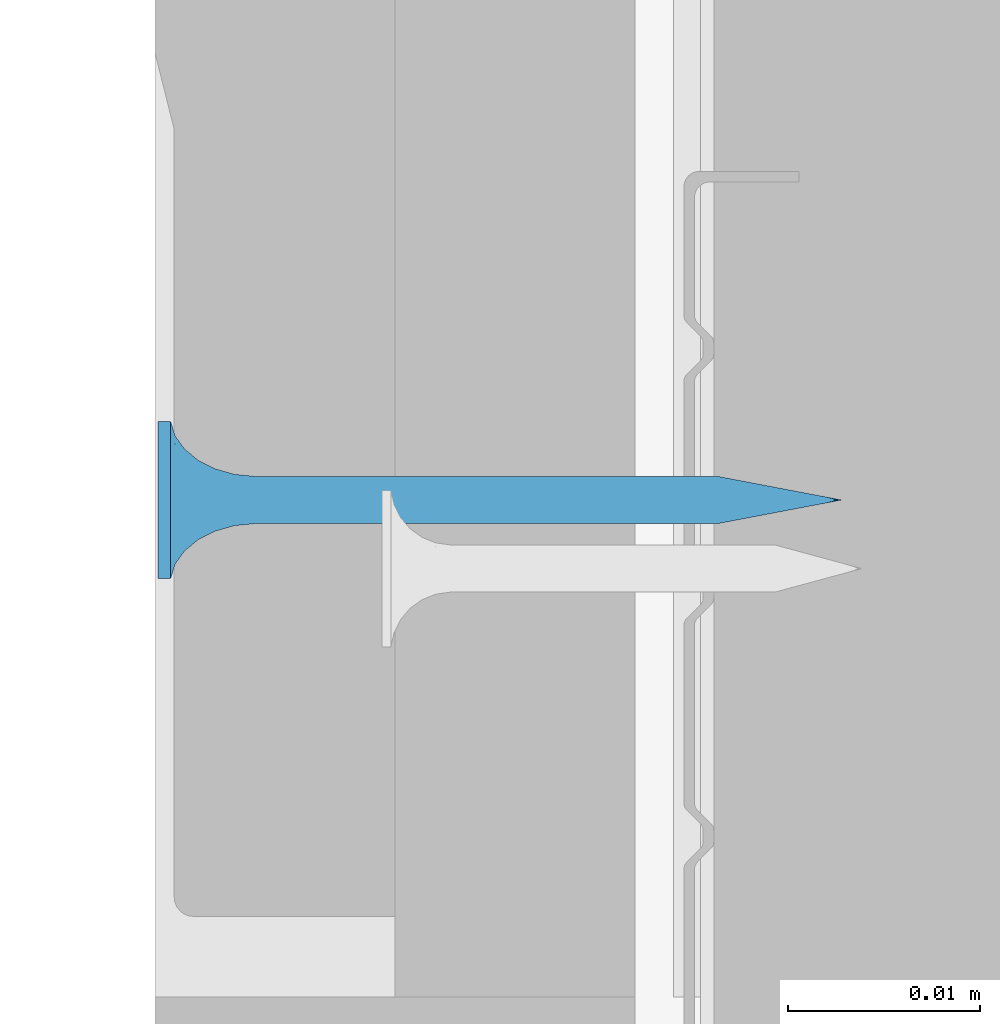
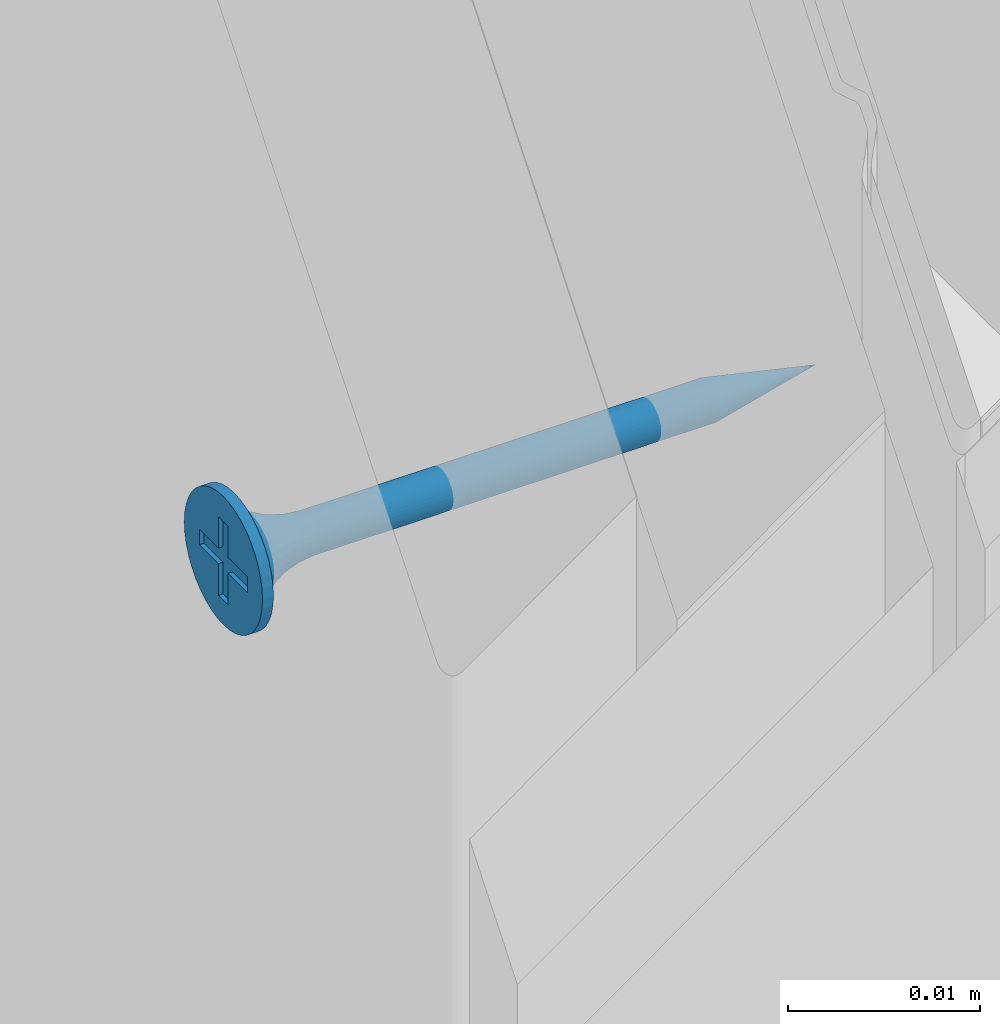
# One storey, part 65 of 92: 1 wall.
"""IFC2X3 building model written with IfcOpenShell, lengths in millimetres."""

from ifc_helpers import new_model, si_unit, frame, origin_with_axes, place, context, subcontext, project, spatial, faceted_brep, material, type_object, element, save


model = new_model("IFC2X3")

# Units and contexts
model_context = context("Model", 3, world=origin_with_axes())
body_context = subcontext(model_context, "Body", "Model", "MODEL_VIEW")
ifc_project = project(units=[si_unit("LENGTHUNIT", "METRE", prefix="MILLI"), si_unit("AREAUNIT", "SQUARE_METRE"), si_unit("VOLUMEUNIT", "CUBIC_METRE")], contexts=[model_context])

# Site, building, storey
site_placement = place(None, origin_with_axes())
site = spatial("IfcSite", under=ifc_project, at=site_placement, Name="Default Site", CompositionType="ELEMENT")
building_placement = place(site_placement, origin_with_axes())
building = spatial("IfcBuilding", under=site, at=building_placement, Name="Default Building", CompositionType="ELEMENT")
storey_placement = place(building_placement, origin_with_axes())
storey = spatial("IfcBuildingStorey", under=building, at=storey_placement, Name="Default Building Storey", CompositionType="ELEMENT", Elevation=0.0)

# Wall
ifc_material = material(Name="Undefined2")
wall_type = type_object("IfcWallType", Name="Wkręt RIGIPS TN 35#37", PredefinedType="NOTDEFINED")
wall_placement = place(storey_placement, frame((4833.413128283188, 6.443031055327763, 636.1937980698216), z_axis=(0.0, 0.0, 1.0), x_axis=(6.938893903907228e-17, -1.0, 0.0)))
element("IfcWall", 1, at=wall_placement, inside=storey, type_object=wall_type, material=ifc_material, Name="Wkręt RIGIPS TN 35", context=body_context, shape_type="Brep", body=[
    faceted_brep([(-141.48753293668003, -4832.598052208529, 555.1619773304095), (-141.48753293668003, -4833.259714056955, 555.1619773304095), (-141.5377465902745, -4833.259714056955, 555.8000000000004), (-141.5377465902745, -4832.598052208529, 555.8000000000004), (-141.33812900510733, -4832.598052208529, 554.539664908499), (-141.33812900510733, -4833.259714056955, 554.539664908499), (-141.09321328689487, -4832.598052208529, 553.9483861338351), (-141.09321328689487, -4833.259714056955, 553.9483861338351), (-140.75881656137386, -4832.598052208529, 553.4027002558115), (-140.75881656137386, -4833.259714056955, 553.4027002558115), (-140.34317265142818, -4833.259714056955, 552.9160436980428), (-140.45417279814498, -4832.598052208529, 553.0314906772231), (-139.8565160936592, -4833.259714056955, 552.5003997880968), (-140.1080097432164, -4832.598052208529, 552.6986613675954), (-139.72512626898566, -4832.598052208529, 552.4088260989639), (-139.31083021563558, -4833.259714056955, 552.1660030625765), (-139.31083021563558, -4832.598052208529, 552.1660030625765), (-138.71955144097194, -4833.259714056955, 551.9210873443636), (-138.87086516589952, -4832.598052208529, 551.9735585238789), (-138.41133029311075, -4832.598052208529, 551.8341602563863), (-138.0972390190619, -4833.259714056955, 551.7716834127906), (-137.9385961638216, -4832.598052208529, 551.74974052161), (-137.45921634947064, -4833.259714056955, 551.7214697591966), (-137.45921634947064, -4832.598052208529, 551.7214697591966), (-136.82119367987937, -4832.598052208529, 551.7716834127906), (-136.82119367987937, -4833.259714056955, 551.7716834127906), (-136.19888125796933, -4832.598052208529, 551.9210873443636), (-136.19888125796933, -4833.259714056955, 551.9210873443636), (-135.6076024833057, -4832.598052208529, 552.1660030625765), (-135.6076024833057, -4833.259714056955, 552.1660030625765), (-135.06191660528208, -4832.598052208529, 552.5003997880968), (-135.06191660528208, -4833.259714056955, 552.5003997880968), (-134.57526004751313, -4832.598052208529, 552.9160436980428), (-134.57526004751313, -4833.259714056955, 552.9160436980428), (-134.1596161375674, -4832.598052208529, 553.4027002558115), (-134.1596161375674, -4833.259714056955, 553.4027002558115), (-133.8252194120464, -4832.598052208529, 553.9483861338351), (-133.8252194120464, -4833.259714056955, 553.9483861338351), (-133.58030369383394, -4832.598052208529, 554.539664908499), (-133.58030369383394, -4833.259714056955, 554.539664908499), (-133.3806861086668, -4833.259714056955, 555.8000000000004), (-133.3806861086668, -4832.598052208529, 555.8000000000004), (-133.43089976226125, -4832.598052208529, 556.4380226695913), (-133.43089976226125, -4833.259714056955, 556.4380226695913), (-133.43089976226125, -4833.259714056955, 555.1619773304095), (-133.43089976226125, -4832.598052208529, 555.1619773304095), (-133.58030369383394, -4832.598052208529, 557.0603350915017), (-133.58030369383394, -4833.259714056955, 557.0603350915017), (-133.8252194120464, -4832.598052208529, 557.6516138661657), (-133.8252194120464, -4833.259714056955, 557.6516138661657), (-134.1596161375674, -4832.598052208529, 558.1972997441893), (-134.1596161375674, -4833.259714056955, 558.1972997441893), (-134.57526004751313, -4832.598052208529, 558.6839563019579), (-134.57526004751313, -4833.259714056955, 558.6839563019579), (-135.06191660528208, -4832.598052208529, 559.099600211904), (-135.06191660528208, -4833.259714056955, 559.099600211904), (-135.6076024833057, -4832.598052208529, 559.4339969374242), (-135.6076024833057, -4833.259714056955, 559.4339969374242), (-136.19888125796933, -4832.598052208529, 559.6789126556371), (-136.19888125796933, -4833.259714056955, 559.6789126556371), (-136.82119367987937, -4832.598052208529, 559.8283165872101), (-136.82119367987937, -4833.259714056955, 559.8283165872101), (-137.45921634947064, -4832.598052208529, 559.8785302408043), (-137.45921634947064, -4833.259714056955, 559.8785302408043), (-138.0972390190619, -4832.598052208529, 559.8283165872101), (-138.0972390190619, -4833.259714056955, 559.8283165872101), (-138.71955144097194, -4832.598052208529, 559.6789126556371), (-138.71955144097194, -4833.259714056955, 559.6789126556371), (-139.31083021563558, -4832.598052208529, 559.4339969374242), (-139.31083021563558, -4833.259714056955, 559.4339969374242), (-139.8565160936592, -4832.598052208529, 559.099600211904), (-139.8565160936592, -4833.259714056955, 559.099600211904), (-140.34317265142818, -4832.598052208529, 558.6839563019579), (-140.34317265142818, -4833.259714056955, 558.6839563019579), (-140.75881656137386, -4832.598052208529, 558.1972997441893), (-140.75881656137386, -4833.259714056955, 558.1972997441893), (-141.09321328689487, -4832.598052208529, 557.6516138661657), (-141.09321328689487, -4833.259714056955, 557.6516138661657), (-141.33812900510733, -4832.598052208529, 557.0603350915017), (-141.33812900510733, -4833.259714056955, 557.0603350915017), (-141.48753293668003, -4832.598052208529, 556.4380226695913), (-141.48753293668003, -4833.259714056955, 556.4380226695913), (-137.65172779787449, -4828.206294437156, 554.5845305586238), (-137.45921634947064, -4828.206294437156, 554.5693795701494), (-137.8060615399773, -4829.281368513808, 554.505556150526), (-137.45921634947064, -4829.281368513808, 554.459893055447), (-137.83949898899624, -4828.206294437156, 554.6296104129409), (-138.12926982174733, -4829.281368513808, 554.6394333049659), (-138.01790634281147, -4828.206294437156, 554.7035091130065), (-138.1825568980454, -4828.206294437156, 554.8044072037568), (-138.40681506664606, -4829.281368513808, 554.852401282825), (-138.3293964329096, -4828.206294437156, 554.9298199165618), (-138.45480914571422, -4828.206294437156, 555.0766594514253), (-138.6197830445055, -4829.281368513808, 555.1299465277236), (-138.5557072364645, -4828.206294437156, 555.2413100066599), (-138.753660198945, -4829.281368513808, 555.4531548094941), (-138.62960593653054, -4828.206294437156, 555.4197173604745), (-138.67468579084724, -4828.206294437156, 555.6074885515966), (-138.79932329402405, -4829.281368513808, 555.7999999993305), (-138.68983677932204, -4828.206294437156, 555.8000000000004), (-138.67468579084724, -4828.206294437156, 555.9925114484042), (-138.753660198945, -4829.281368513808, 556.1468451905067), (-138.62960593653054, -4828.206294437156, 556.1802826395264), (-138.6197830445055, -4829.281368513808, 556.4700534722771), (-138.5557072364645, -4828.206294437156, 556.3586899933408), (-138.45480914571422, -4828.206294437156, 556.5233405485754), (-138.40681506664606, -4829.281368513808, 556.7475987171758), (-138.3293964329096, -4828.206294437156, 556.6701800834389), (-138.1825568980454, -4828.206294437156, 556.7955927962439), (-138.12926982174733, -4829.281368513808, 556.9605666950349), (-138.01790634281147, -4828.206294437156, 556.8964908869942), (-137.8060615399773, -4829.281368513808, 557.0944438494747), (-137.83949898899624, -4828.206294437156, 556.9703895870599), (-137.65172779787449, -4828.206294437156, 557.0154694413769), (-137.45921634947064, -4829.281368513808, 557.1401069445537), (-137.45921634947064, -4828.206294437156, 557.0306204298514), (-137.26670490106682, -4828.206294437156, 557.0154694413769), (-137.11237115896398, -4829.281368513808, 557.0944438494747), (-137.07893370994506, -4828.206294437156, 556.9703895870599), (-136.78916287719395, -4829.281368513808, 556.9605666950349), (-136.9005263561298, -4828.206294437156, 556.8964908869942), (-136.7358758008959, -4828.206294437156, 556.7955927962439), (-136.5116176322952, -4829.281368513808, 556.7475987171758), (-136.58903626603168, -4828.206294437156, 556.6701800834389), (-136.46362355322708, -4828.206294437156, 556.5233405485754), (-136.2986496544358, -4829.281368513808, 556.4700534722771), (-136.36272546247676, -4828.206294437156, 556.3586899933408), (-136.16477249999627, -4829.281368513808, 556.1468451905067), (-136.28882676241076, -4828.206294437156, 556.1802826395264), (-136.24374690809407, -4828.206294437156, 555.9925114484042), (-136.11910940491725, -4829.281368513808, 555.7999999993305), (-136.22859591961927, -4828.206294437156, 555.8000000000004), (-136.24374690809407, -4828.206294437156, 555.6074885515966), (-136.16477249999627, -4829.281368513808, 555.4531548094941), (-136.28882676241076, -4828.206294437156, 555.4197173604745), (-136.2986496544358, -4829.281368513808, 555.1299465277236), (-136.36272546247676, -4828.206294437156, 555.2413100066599), (-136.46362355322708, -4828.206294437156, 555.0766594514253), (-136.5116176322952, -4829.281368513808, 554.852401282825), (-136.58903626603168, -4828.206294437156, 554.9298199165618), (-136.7358758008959, -4828.206294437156, 554.8044072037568), (-136.78916287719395, -4829.281368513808, 554.6394333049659), (-136.9005263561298, -4828.206294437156, 554.7035091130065), (-137.11237115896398, -4829.281368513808, 554.505556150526), (-137.07893370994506, -4828.206294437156, 554.6296104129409), (-137.26670490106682, -4828.206294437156, 554.5845305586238), (-137.45921634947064, -4830.288222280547, 554.1737111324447), (-137.88013087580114, -4830.288222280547, 554.2291255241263), (-138.2723607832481, -4830.288222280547, 554.391592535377), (-138.60917621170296, -4830.288222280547, 554.6500401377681), (-138.8676238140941, -4830.288222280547, 554.9868555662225), (-139.03009082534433, -4830.288222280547, 555.3790854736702), (-139.08550521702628, -4830.288222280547, 555.7999999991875), (-139.03009082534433, -4830.288222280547, 556.2209145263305), (-138.8676238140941, -4830.288222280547, 556.6131444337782), (-138.60917621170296, -4830.288222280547, 556.9499598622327), (-138.2723607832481, -4830.288222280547, 557.2084074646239), (-137.88013087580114, -4830.288222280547, 557.3708744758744), (-137.45921634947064, -4830.288222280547, 557.426288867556), (-137.03830182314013, -4830.288222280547, 557.3708744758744), (-136.64607191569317, -4830.288222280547, 557.2084074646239), (-136.30925648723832, -4830.288222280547, 556.9499598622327), (-136.05080888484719, -4830.288222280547, 556.6131444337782), (-135.88834187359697, -4830.288222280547, 556.2209145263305), (-135.832927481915, -4830.288222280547, 555.7999999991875), (-135.88834187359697, -4830.288222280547, 555.3790854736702), (-136.05080888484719, -4830.288222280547, 554.9868555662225), (-136.30925648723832, -4830.288222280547, 554.6500401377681), (-136.64607191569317, -4830.288222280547, 554.391592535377), (-137.03830182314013, -4830.288222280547, 554.2291255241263), (-137.45921634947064, -4831.168773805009, 553.7273430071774), (-137.99565943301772, -4831.168773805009, 553.7979670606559), (-138.49554484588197, -4831.168773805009, 554.0050264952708), (-138.92480608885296, -4831.168773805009, 554.334410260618), (-139.25418985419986, -4831.168773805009, 554.7636715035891), (-139.46124928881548, -4831.168773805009, 555.2635569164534), (-139.53187334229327, -4831.168773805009, 555.799999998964), (-139.46124928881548, -4831.168773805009, 556.3364430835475), (-139.25418985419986, -4831.168773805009, 556.8363284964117), (-138.92480608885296, -4831.168773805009, 557.2655897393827), (-138.49554484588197, -4831.168773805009, 557.59497350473), (-137.99565943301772, -4831.168773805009, 557.8020329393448), (-137.45921634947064, -4831.168773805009, 557.8726569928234), (-136.92277326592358, -4831.168773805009, 557.8020329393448), (-136.42288785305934, -4831.168773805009, 557.59497350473), (-135.9936266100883, -4831.168773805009, 557.2655897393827), (-135.6642428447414, -4831.168773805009, 556.8363284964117), (-135.45718341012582, -4831.168773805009, 556.3364430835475), (-135.386559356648, -4831.168773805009, 555.799999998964), (-135.45718341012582, -4831.168773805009, 555.2635569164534), (-135.6642428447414, -4831.168773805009, 554.7636715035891), (-135.9936266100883, -4831.168773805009, 554.334410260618), (-136.42288785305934, -4831.168773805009, 554.0050264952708), (-136.92277326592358, -4831.168773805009, 553.7979670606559), (-137.45921634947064, -4831.872222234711, 553.1465392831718), (-138.14598252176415, -4831.872222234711, 553.2369539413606), (-138.78594670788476, -4831.872222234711, 553.5020355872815), (-139.33549641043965, -4831.872222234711, 553.923719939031), (-139.75718076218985, -4831.872222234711, 554.473269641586), (-140.02226240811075, -4831.872222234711, 555.1132338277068), (-140.11267706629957, -4831.872222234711, 555.7999999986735), (-140.02226240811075, -4831.872222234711, 556.4867661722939), (-139.75718076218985, -4831.872222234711, 557.1267303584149), (-139.33549641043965, -4831.872222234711, 557.6762800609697), (-138.78594670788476, -4831.872222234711, 558.0979644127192), (-138.14598252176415, -4831.872222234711, 558.3630460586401), (-137.45921634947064, -4831.872222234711, 558.453460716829), (-136.77245017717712, -4831.872222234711, 558.3630460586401), (-136.13248599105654, -4831.872222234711, 558.0979644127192), (-135.58293628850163, -4831.872222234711, 557.6762800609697), (-135.16125193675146, -4831.872222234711, 557.1267303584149), (-134.89617029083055, -4831.872222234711, 556.4867661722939), (-134.8057556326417, -4831.872222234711, 555.7999999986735), (-134.89617029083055, -4831.872222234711, 555.1132338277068), (-135.16125193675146, -4831.872222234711, 554.473269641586), (-135.58293628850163, -4831.872222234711, 553.923719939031), (-136.13248599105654, -4831.872222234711, 553.5020355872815), (-136.77245017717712, -4831.872222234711, 553.2369539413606), (-137.45921634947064, -4832.357990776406, 552.4648055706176), (-138.3224281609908, -4832.357990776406, 552.5784495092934), (-139.12681356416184, -4832.357990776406, 552.9116369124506), (-139.8175549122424, -4832.357990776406, 553.4416614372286), (-140.34757943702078, -4832.357990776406, 554.1324027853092), (-140.680766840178, -4832.357990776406, 554.9367881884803), (-140.79441077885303, -4832.357990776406, 555.7999999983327), (-140.680766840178, -4832.357990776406, 556.6632118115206), (-140.34757943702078, -4832.357990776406, 557.4675972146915), (-139.8175549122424, -4832.357990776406, 558.1583385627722), (-139.12681356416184, -4832.357990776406, 558.6883630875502), (-138.3224281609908, -4832.357990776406, 559.0215504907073), (-137.45921634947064, -4832.357990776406, 559.1351944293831), (-136.5960045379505, -4832.357990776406, 559.0215504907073), (-135.79161913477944, -4832.357990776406, 558.6883630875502), (-135.10087778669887, -4832.357990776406, 558.1583385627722), (-134.5708532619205, -4832.357990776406, 557.4675972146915), (-134.23766585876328, -4832.357990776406, 556.6632118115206), (-134.12402192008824, -4832.357990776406, 555.7999999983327), (-134.23766585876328, -4832.357990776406, 554.9367881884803), (-134.5708532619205, -4832.357990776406, 554.1324027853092), (-135.10087778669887, -4832.357990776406, 553.4416614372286), (-135.79161913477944, -4832.357990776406, 552.9116369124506), (-136.5960045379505, -4832.357990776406, 552.5784495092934), (-138.67468579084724, -4804.0937578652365, 555.6074885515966), (-138.68983677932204, -4804.0937578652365, 555.8000000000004), (-138.62960593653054, -4804.0937578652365, 555.4197173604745), (-138.5557072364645, -4804.0937578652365, 555.2413100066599), (-138.45480914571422, -4804.0937578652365, 555.0766594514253), (-138.3293964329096, -4804.0937578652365, 554.9298199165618), (-138.1825568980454, -4804.0937578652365, 554.8044072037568), (-138.01790634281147, -4804.0937578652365, 554.7035091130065), (-137.83949898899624, -4804.0937578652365, 554.6296104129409), (-137.65172779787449, -4804.0937578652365, 554.5845305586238), (-137.45921634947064, -4804.0937578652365, 554.5693795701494), (-137.26670490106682, -4804.0937578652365, 554.5845305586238), (-137.07893370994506, -4804.0937578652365, 554.6296104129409), (-136.9005263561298, -4804.0937578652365, 554.7035091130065), (-136.7358758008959, -4804.0937578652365, 554.8044072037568), (-136.58903626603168, -4804.0937578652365, 554.9298199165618), (-136.46362355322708, -4804.0937578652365, 555.0766594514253), (-136.36272546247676, -4804.0937578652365, 555.2413100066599), (-136.28882676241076, -4804.0937578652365, 555.4197173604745), (-136.22859591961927, -4804.0937578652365, 555.8000000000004), (-136.24374690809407, -4804.0937578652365, 555.9925114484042), (-136.24374690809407, -4804.0937578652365, 555.6074885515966), (-136.28882676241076, -4804.0937578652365, 556.1802826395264), (-136.36272546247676, -4804.0937578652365, 556.3586899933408), (-136.46362355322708, -4804.0937578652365, 556.5233405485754), (-136.58903626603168, -4804.0937578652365, 556.6701800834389), (-136.7358758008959, -4804.0937578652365, 556.7955927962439), (-136.9005263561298, -4804.0937578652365, 556.8964908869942), (-137.07893370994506, -4804.0937578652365, 556.9703895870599), (-137.26670490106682, -4804.0937578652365, 557.0154694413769), (-137.45921634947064, -4804.0937578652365, 557.0306204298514), (-137.65172779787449, -4804.0937578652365, 557.0154694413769), (-137.83949898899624, -4804.0937578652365, 556.9703895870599), (-138.01790634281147, -4804.0937578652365, 556.8964908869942), (-138.1825568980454, -4804.0937578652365, 556.7955927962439), (-138.3293964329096, -4804.0937578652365, 556.6701800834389), (-138.45480914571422, -4804.0937578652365, 556.5233405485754), (-138.5557072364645, -4804.0937578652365, 556.3586899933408), (-138.62960593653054, -4804.0937578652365, 556.1802826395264), (-138.67468579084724, -4804.0937578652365, 555.9925114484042), (-137.45921634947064, -4797.627062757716, 555.8000000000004), (-139.95921629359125, -4833.259714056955, 555.2999999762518), (-139.95921629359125, -4833.259714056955, 556.300000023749), (-137.95921637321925, -4833.259714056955, 556.300000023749), (-137.95921637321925, -4833.259714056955, 558.2999999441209), (-136.95921632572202, -4833.259714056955, 558.2999999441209), (-136.95921632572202, -4833.259714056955, 556.300000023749), (-134.95921640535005, -4833.259714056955, 556.300000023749), (-134.95921640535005, -4833.259714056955, 555.2999999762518), (-136.95921632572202, -4833.259714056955, 555.2999999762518), (-136.95921632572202, -4833.259714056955, 553.3000000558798), (-137.95921637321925, -4833.259714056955, 553.3000000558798), (-137.95921637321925, -4833.259714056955, 555.2999999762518), (-136.95921632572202, -4832.988378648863, 558.2999999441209), (-137.95921637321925, -4832.988378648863, 558.2999999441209), (-137.95921637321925, -4832.988378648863, 556.300000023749), (-139.95921629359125, -4832.988378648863, 556.300000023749), (-139.95921629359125, -4832.988378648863, 555.2999999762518), (-137.95921637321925, -4832.988378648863, 555.2999999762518), (-137.95921637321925, -4832.988378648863, 553.3000000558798), (-136.95921632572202, -4832.988378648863, 553.3000000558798), (-136.95921632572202, -4832.988378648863, 555.2999999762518), (-134.95921640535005, -4832.988378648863, 555.2999999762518), (-134.95921640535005, -4832.988378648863, 556.300000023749), (-136.95921632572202, -4832.988378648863, 556.300000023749)], [[[0, 1, 2, 3]], [[1, 0, 4, 5]], [[5, 4, 6, 7]], [[8, 9, 7, 6]], [[8, 10, 9]], [[8, 11, 10]], [[12, 11, 13]], [[12, 10, 11]], [[13, 14, 12]], [[14, 15, 12]], [[14, 16, 15]], [[17, 16, 18]], [[17, 15, 16]], [[18, 19, 17]], [[20, 19, 21]], [[20, 17, 19]], [[21, 22, 20]], [[21, 23, 22]], [[24, 25, 22, 23]], [[25, 24, 26, 27]], [[27, 26, 28, 29]], [[30, 31, 29, 28]], [[31, 30, 32, 33]], [[34, 35, 33, 32]], [[35, 34, 36, 37]], [[37, 36, 38, 39]], [[40, 41, 42, 43]], [[44, 45, 41, 40]], [[45, 44, 39, 38]], [[43, 42, 46, 47]], [[47, 46, 48, 49]], [[50, 51, 49, 48]], [[51, 50, 52, 53]], [[54, 55, 53, 52]], [[55, 54, 56, 57]], [[57, 56, 58, 59]], [[60, 61, 59, 58]], [[61, 60, 62, 63]], [[64, 65, 63, 62]], [[65, 64, 66, 67]], [[67, 66, 68, 69]], [[70, 71, 69, 68]], [[71, 70, 72, 73]], [[74, 75, 73, 72]], [[75, 74, 76, 77]], [[77, 76, 78, 79]], [[80, 81, 79, 78]], [[81, 80, 3, 2]], [[82, 83, 84]], [[83, 85, 84]], [[84, 86, 82]], [[84, 87, 88, 86]], [[89, 88, 87]], [[87, 90, 89]], [[90, 91, 89]], [[92, 91, 93]], [[91, 90, 93]], [[93, 94, 92]], [[93, 95, 96, 94]], [[97, 96, 95]], [[95, 98, 97]], [[98, 99, 97]], [[100, 99, 101]], [[99, 98, 101]], [[101, 102, 100]], [[101, 103, 104, 102]], [[105, 104, 103]], [[103, 106, 105]], [[106, 107, 105]], [[108, 107, 109]], [[107, 106, 109]], [[109, 110, 108]], [[109, 111, 112, 110]], [[113, 112, 111]], [[111, 114, 113]], [[114, 115, 113]], [[116, 115, 117]], [[115, 114, 117]], [[117, 118, 116]], [[117, 119, 120, 118]], [[121, 120, 119]], [[119, 122, 121]], [[122, 123, 121]], [[124, 123, 125]], [[123, 122, 125]], [[125, 126, 124]], [[125, 127, 128, 126]], [[129, 128, 127]], [[127, 130, 129]], [[130, 131, 129]], [[132, 131, 133]], [[131, 130, 133]], [[133, 134, 132]], [[133, 135, 136, 134]], [[137, 136, 135]], [[135, 138, 137]], [[138, 139, 137]], [[140, 139, 141]], [[139, 138, 141]], [[141, 142, 140]], [[141, 143, 144, 142]], [[145, 144, 143]], [[143, 85, 145]], [[85, 83, 145]], [[146, 147, 84, 85]], [[84, 147, 148, 87]], [[87, 148, 149, 90]], [[90, 149, 150, 93]], [[93, 150, 151, 95]], [[95, 151, 152, 98]], [[98, 152, 153, 101]], [[101, 153, 154, 103]], [[103, 154, 155, 106]], [[106, 155, 156, 109]], [[109, 156, 157, 111]], [[111, 157, 158, 114]], [[114, 158, 159, 117]], [[117, 159, 160, 119]], [[119, 160, 161, 122]], [[122, 161, 162, 125]], [[125, 162, 163, 127]], [[127, 163, 164, 130]], [[130, 164, 165, 133]], [[133, 165, 166, 135]], [[135, 166, 167, 138]], [[138, 167, 168, 141]], [[141, 168, 169, 143]], [[143, 169, 146, 85]], [[170, 171, 147, 146]], [[147, 171, 172, 148]], [[148, 172, 173, 149]], [[149, 173, 174, 150]], [[150, 174, 175, 151]], [[151, 175, 176, 152]], [[152, 176, 177, 153]], [[153, 177, 178, 154]], [[154, 178, 179, 155]], [[155, 179, 180, 156]], [[156, 180, 181, 157]], [[157, 181, 182, 158]], [[158, 182, 183, 159]], [[159, 183, 184, 160]], [[160, 184, 185, 161]], [[161, 185, 186, 162]], [[162, 186, 187, 163]], [[163, 187, 188, 164]], [[164, 188, 189, 165]], [[165, 189, 190, 166]], [[166, 190, 191, 167]], [[167, 191, 192, 168]], [[168, 192, 193, 169]], [[169, 193, 170, 146]], [[194, 195, 171, 170]], [[171, 195, 196, 172]], [[172, 196, 197, 173]], [[173, 197, 198, 174]], [[174, 198, 199, 175]], [[175, 199, 200, 176]], [[176, 200, 201, 177]], [[177, 201, 202, 178]], [[178, 202, 203, 179]], [[179, 203, 204, 180]], [[180, 204, 205, 181]], [[181, 205, 206, 182]], [[182, 206, 207, 183]], [[183, 207, 208, 184]], [[184, 208, 209, 185]], [[185, 209, 210, 186]], [[186, 210, 211, 187]], [[187, 211, 212, 188]], [[188, 212, 213, 189]], [[189, 213, 214, 190]], [[190, 214, 215, 191]], [[191, 215, 216, 192]], [[192, 216, 217, 193]], [[193, 217, 194, 170]], [[21, 19, 218]], [[19, 219, 218]], [[218, 23, 21]], [[218, 219, 195, 194]], [[18, 16, 219]], [[16, 220, 219]], [[219, 19, 18]], [[195, 219, 220, 196]], [[13, 11, 221]], [[14, 13, 220]], [[13, 221, 220]], [[220, 16, 14]], [[196, 220, 221, 197]], [[8, 6, 222]], [[222, 221, 8]], [[221, 11, 8]], [[197, 221, 222, 198]], [[4, 223, 222, 6]], [[198, 222, 223, 199]], [[0, 3, 223]], [[3, 224, 223]], [[223, 4, 0]], [[199, 223, 224, 200]], [[80, 78, 225]], [[225, 224, 80]], [[224, 3, 80]], [[200, 224, 225, 201]], [[78, 76, 226, 225]], [[201, 225, 226, 202]], [[74, 72, 226]], [[72, 227, 226]], [[226, 76, 74]], [[202, 226, 227, 203]], [[70, 68, 228]], [[228, 227, 70]], [[227, 72, 70]], [[203, 227, 228, 204]], [[68, 66, 229, 228]], [[204, 228, 229, 205]], [[64, 62, 229]], [[62, 230, 229]], [[229, 66, 64]], [[205, 229, 230, 206]], [[60, 58, 231]], [[231, 230, 60]], [[230, 62, 60]], [[206, 230, 231, 207]], [[58, 56, 232, 231]], [[207, 231, 232, 208]], [[54, 52, 232]], [[52, 233, 232]], [[232, 56, 54]], [[208, 232, 233, 209]], [[50, 48, 234]], [[234, 233, 50]], [[233, 52, 50]], [[209, 233, 234, 210]], [[48, 46, 235, 234]], [[210, 234, 235, 211]], [[42, 41, 235]], [[41, 236, 235]], [[235, 46, 42]], [[211, 235, 236, 212]], [[45, 38, 237]], [[237, 236, 45]], [[236, 41, 45]], [[212, 236, 237, 213]], [[36, 238, 237, 38]], [[213, 237, 238, 214]], [[34, 32, 238]], [[32, 239, 238]], [[238, 36, 34]], [[214, 238, 239, 215]], [[30, 28, 240]], [[240, 239, 30]], [[239, 32, 30]], [[215, 239, 240, 216]], [[26, 241, 240, 28]], [[216, 240, 241, 217]], [[217, 241, 218, 194]], [[24, 23, 241]], [[23, 218, 241]], [[241, 26, 24]], [[242, 97, 99, 243]], [[97, 242, 244, 96]], [[96, 244, 245, 94]], [[246, 92, 94, 245]], [[92, 246, 247, 91]], [[248, 89, 91, 247]], [[89, 248, 249, 88]], [[88, 249, 250, 86]], [[251, 82, 86, 250]], [[82, 251, 252, 83]], [[253, 145, 83, 252]], [[145, 253, 254, 144]], [[144, 254, 255, 142]], [[256, 140, 142, 255]], [[140, 256, 257, 139]], [[258, 137, 139, 257]], [[137, 258, 259, 136]], [[136, 259, 260, 134]], [[131, 261, 262, 129]], [[132, 263, 261, 131]], [[263, 132, 134, 260]], [[129, 262, 264, 128]], [[128, 264, 265, 126]], [[266, 124, 126, 265]], [[124, 266, 267, 123]], [[268, 121, 123, 267]], [[121, 268, 269, 120]], [[120, 269, 270, 118]], [[271, 116, 118, 270]], [[116, 271, 272, 115]], [[273, 113, 115, 272]], [[113, 273, 274, 112]], [[112, 274, 275, 110]], [[276, 108, 110, 275]], [[108, 276, 277, 107]], [[278, 105, 107, 277]], [[105, 278, 279, 104]], [[104, 279, 280, 102]], [[281, 100, 102, 280]], [[100, 281, 243, 99]], [[282, 244, 242]], [[242, 243, 282]], [[282, 245, 244]], [[282, 247, 246]], [[246, 245, 282]], [[282, 249, 248]], [[248, 247, 282]], [[282, 250, 249]], [[282, 252, 251]], [[251, 250, 282]], [[282, 254, 253]], [[253, 252, 282]], [[282, 255, 254]], [[282, 257, 256]], [[256, 255, 282]], [[282, 259, 258]], [[258, 257, 282]], [[282, 260, 259]], [[282, 261, 263]], [[263, 260, 282]], [[282, 264, 262]], [[262, 261, 282]], [[282, 265, 264]], [[282, 267, 266]], [[266, 265, 282]], [[282, 269, 268]], [[268, 267, 282]], [[282, 270, 269]], [[282, 272, 271]], [[271, 270, 282]], [[282, 274, 273]], [[273, 272, 282]], [[282, 275, 274]], [[282, 277, 276]], [[276, 275, 282]], [[282, 279, 278]], [[278, 277, 282]], [[282, 280, 279]], [[282, 243, 281]], [[281, 280, 282]], [[75, 77, 79, 81, 2, 1, 5, 7, 9, 10, 12, 15, 17, 20, 22, 25, 27, 29, 31, 33, 35, 37, 39, 44, 40, 43, 47, 49, 51, 53, 55, 57, 59, 61, 63, 65, 67, 69, 71, 73], [283, 284, 285, 286, 287, 288, 289, 290, 291, 292, 293, 294]], [[295, 296, 297, 298, 299, 300, 301, 302, 303, 304, 305, 306]], [[303, 291, 290, 304]], [[304, 290, 289, 305]], [[305, 289, 288, 306]], [[306, 288, 287, 295]], [[295, 287, 286, 296]], [[296, 286, 285, 297]], [[297, 285, 284, 298]], [[298, 284, 283, 299]], [[299, 283, 294, 300]], [[300, 294, 293, 301]], [[301, 293, 292, 302]], [[302, 292, 291, 303]]]),
])

save(model, "model.ifc")
